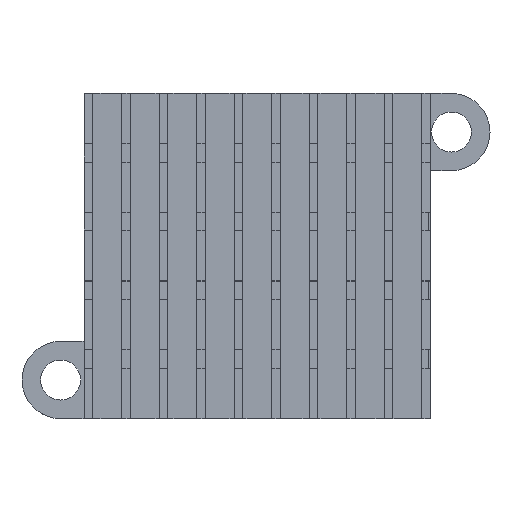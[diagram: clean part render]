
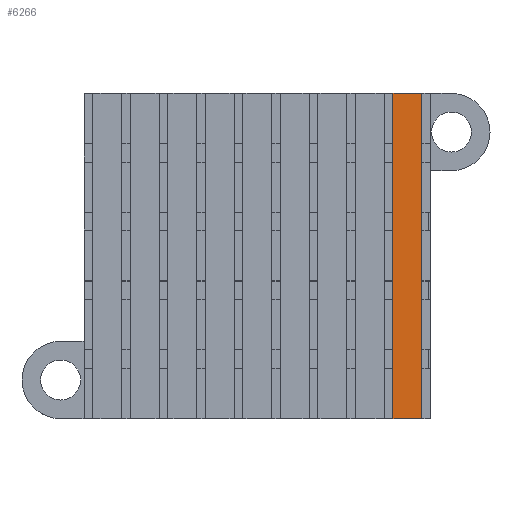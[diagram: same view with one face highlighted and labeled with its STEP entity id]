
A CAD part, top view. The second image highlights one B-rep face of the part: STEP entity #6266.
In plain terms, the highlighted planar face has unit normal (0, 0, 1).
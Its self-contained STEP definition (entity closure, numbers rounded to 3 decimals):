
#5 = DIRECTION ( 'NONE',  ( 0., 1., 0. ) ) ;
#207 = ORIENTED_EDGE ( 'NONE', *, *, #2518, .F. ) ;
#562 = PLANE ( 'NONE',  #5384 ) ;
#585 = VERTEX_POINT ( 'NONE', #2749 ) ;
#688 = EDGE_CURVE ( 'NONE', #5277, #5766, #4557, .T. ) ;
#988 = DIRECTION ( 'NONE',  ( 0., -1., 0. ) ) ;
#1016 = VECTOR ( 'NONE', #988, 1000. ) ;
#1082 = CARTESIAN_POINT ( 'NONE',  ( 10.95, 13., 1.78 ) ) ;
#1123 = VECTOR ( 'NONE', #2892, 1000. ) ;
#1167 = DIRECTION ( 'NONE',  ( 0., 0., 1. ) ) ;
#1541 = EDGE_CURVE ( 'NONE', #1830, #585, #2856, .T. ) ;
#1673 = VECTOR ( 'NONE', #5, 1000. ) ;
#1725 = CARTESIAN_POINT ( 'NONE',  ( 10.95, -13., 1.78 ) ) ;
#1830 = VERTEX_POINT ( 'NONE', #1725 ) ;
#2082 = ORIENTED_EDGE ( 'NONE', *, *, #1541, .T. ) ;
#2518 = EDGE_CURVE ( 'NONE', #5277, #585, #2640, .T. ) ;
#2640 = LINE ( 'NONE', #6554, #1016 ) ;
#2749 = CARTESIAN_POINT ( 'NONE',  ( 13.25, -13., 1.78 ) ) ;
#2856 = LINE ( 'NONE', #5033, #1123 ) ;
#2862 = EDGE_CURVE ( 'NONE', #1830, #5766, #3815, .T. ) ;
#2892 = DIRECTION ( 'NONE',  ( 1., 0., 0. ) ) ;
#3282 = CARTESIAN_POINT ( 'NONE',  ( 10.95, 13., 1.78 ) ) ;
#3792 = CARTESIAN_POINT ( 'NONE',  ( 15.62, 9.915, 1.78 ) ) ;
#3815 = LINE ( 'NONE', #1082, #1673 ) ;
#3930 = FACE_OUTER_BOUND ( 'NONE', #5416, .T. ) ;
#4557 = LINE ( 'NONE', #5668, #5041 ) ;
#4894 = DIRECTION ( 'NONE',  ( 1., 0., 0. ) ) ;
#5033 = CARTESIAN_POINT ( 'NONE',  ( -15.62, -13., 1.78 ) ) ;
#5041 = VECTOR ( 'NONE', #5634, 1000. ) ;
#5222 = CARTESIAN_POINT ( 'NONE',  ( 13.25, 13., 1.78 ) ) ;
#5277 = VERTEX_POINT ( 'NONE', #5222 ) ;
#5354 = ORIENTED_EDGE ( 'NONE', *, *, #688, .T. ) ;
#5384 = AXIS2_PLACEMENT_3D ( 'NONE', #3792, #1167, #4894 ) ;
#5416 = EDGE_LOOP ( 'NONE', ( #2082, #207, #5354, #6797 ) ) ;
#5634 = DIRECTION ( 'NONE',  ( -1., 0., 0. ) ) ;
#5668 = CARTESIAN_POINT ( 'NONE',  ( 11.153, 13., 1.78 ) ) ;
#5766 = VERTEX_POINT ( 'NONE', #3282 ) ;
#6266 = ADVANCED_FACE ( 'NONE', ( #3930 ), #562, .T. ) ;
#6554 = CARTESIAN_POINT ( 'NONE',  ( 13.25, 13., 1.78 ) ) ;
#6797 = ORIENTED_EDGE ( 'NONE', *, *, #2862, .F. ) ;
